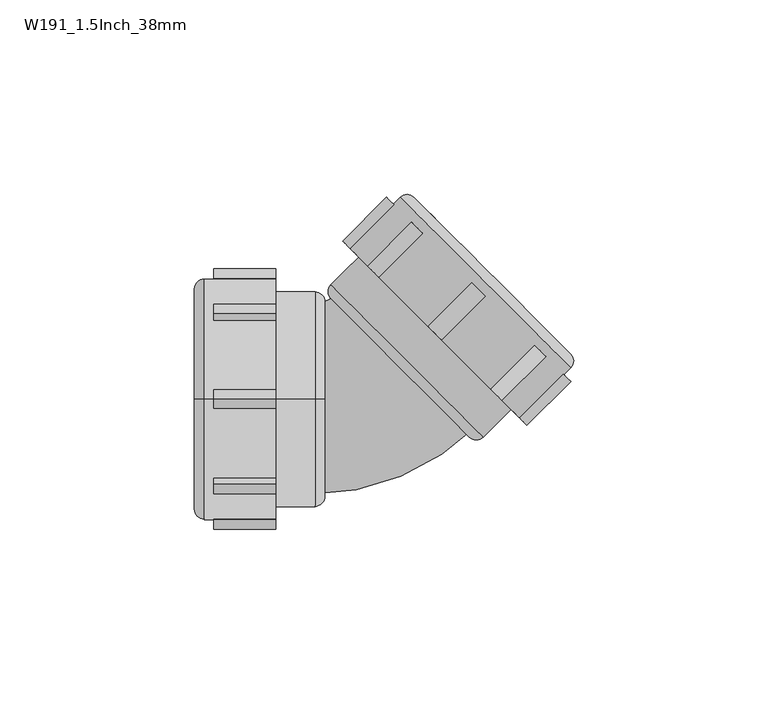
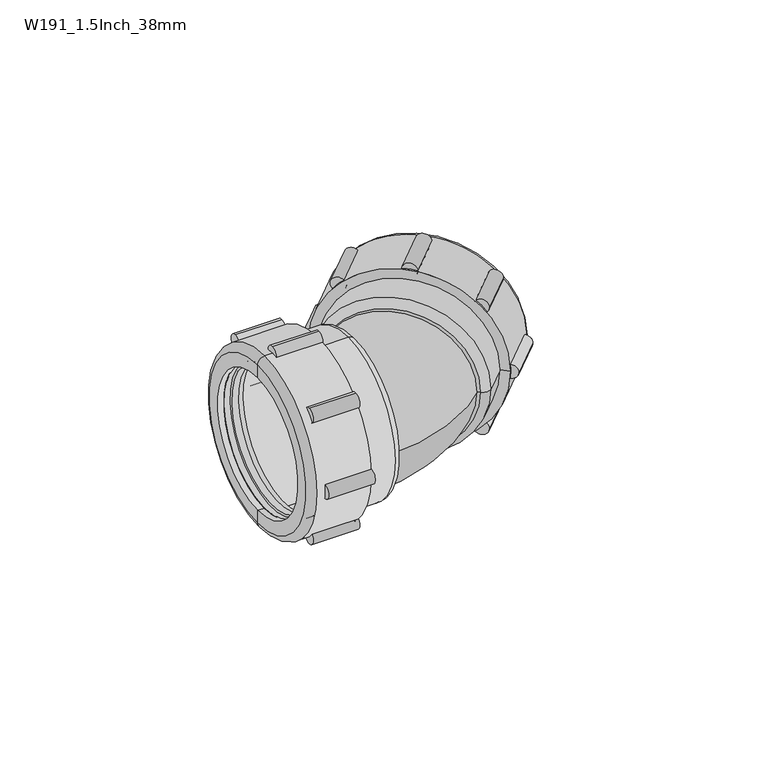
"""IFC4 building model written with IfcOpenShell, lengths in millimetres: pipe fitting geometry, Durapipe_PipeFitting_VulcatheneMechanical_135SlowBend_W19 : W191_1.5Inch_38mm."""

from ifc_helpers import new_model, si_unit, point, frame, frame_2d, origin, place, context, project, spatial, polyline, circle_curve, ellipse_curve, trimmed, segment, composite_curve, outline, extrude, source, transform, mapped, element, save
from ifc_brep_helpers import plane_surface, cylinder_surface, revolved_surface, advanced_brep


def w191_1_5inch_38mm_0de2b571(model_context):
    return source(origin(), model_context, "Body", "SolidModel", [
        advanced_brep(
        [(24.7539307, 43.1739069, 18.5969083), (51.0539307, 16.8739069, -18.5969083), (50.0039307, 17.9239069, -17.1119841), (25.8039307, 42.1239069, 17.1119841), (21.4183968, 39.438373, 18.3140656), (47.3183968, 13.538373, -18.3140656), (20.5077366, 38.2277129, 18.1019336), (46.1077366, 12.6277129, -18.1019336), (47.1683968, 13.688373, -18.1019336), (21.5683968, 39.288373, 18.1019336), (21.2077366, 37.5277129, 17.1119841), (45.4077366, 13.3277129, -17.1119841), (22.6219502, 38.9419264, 17.1119841), (46.8219502, 14.7419264, -17.1119841), (23.0219502, 38.5419264, 16.5462987), (46.4219502, 15.1419264, -16.5462987), (24.2482958, 40.568272, 17.1119841), (48.4482958, 16.368272, -17.1119841), (48.0482958, 16.768272, -16.5462987), (24.6482958, 40.168272, 16.5462987)],
        [
            (0, 1, circle_curve(frame((37.9039307, 30.0239069, 0.0), z_axis=(0.7071067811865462, 0.7071067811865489, 0.0), x_axis=(0.5000000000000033, -0.4999999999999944, -0.7071067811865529)), 26.3)),
            (1, 2),
            (2, 3, circle_curve(frame((37.9039307, 30.0239069, 0.0), z_axis=(-0.7071067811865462, -0.7071067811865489, 0.0), x_axis=(0.5000000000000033, -0.4999999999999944, -0.7071067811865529)), 24.2)),
            (3, 0),
            (1, 0, circle_curve(frame((37.9039307, 30.0239069, 0.0), z_axis=(0.7071067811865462, 0.7071067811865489, 0.0), x_axis=(0.5000000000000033, -0.4999999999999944, -0.7071067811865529)), 26.3)),
            (3, 2, circle_curve(frame((37.9039307, 30.0239069, 0.0), z_axis=(-0.7071067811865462, -0.7071067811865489, 0.0), x_axis=(0.5000000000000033, -0.4999999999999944, -0.7071067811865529)), 24.2)),
            (4, 5, circle_curve(frame((34.3683968, 26.488373, 0.0), z_axis=(0.7071067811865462, 0.7071067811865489, 0.0), x_axis=(0.5000000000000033, -0.4999999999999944, -0.7071067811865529)), 25.9)),
            (5, 1),
            (0, 4),
            (5, 4, circle_curve(frame((34.3683968, 26.488373, 0.0), z_axis=(0.7071067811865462, 0.7071067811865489, 0.0), x_axis=(0.5000000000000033, -0.4999999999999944, -0.7071067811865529)), 25.9)),
            (6, 7, circle_curve(frame((33.3077366, 25.4277129, 0.0), z_axis=(0.7071067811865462, 0.7071067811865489, 0.0), x_axis=(0.5000000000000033, -0.4999999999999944, -0.7071067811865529)), 25.6)),
            (7, 8),
            (8, 9, circle_curve(frame((34.3683968, 26.488373, 0.0), z_axis=(-0.7071067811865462, -0.7071067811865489, 0.0), x_axis=(0.5000000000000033, -0.4999999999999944, -0.7071067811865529)), 25.6)),
            (9, 6),
            (7, 6, circle_curve(frame((33.3077366, 25.4277129, 0.0), z_axis=(0.7071067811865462, 0.7071067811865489, 0.0), x_axis=(0.5000000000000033, -0.4999999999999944, -0.7071067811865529)), 25.6)),
            (9, 8, circle_curve(frame((34.3683968, 26.488373, 0.0), z_axis=(-0.7071067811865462, -0.7071067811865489, 0.0), x_axis=(0.5000000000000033, -0.4999999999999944, -0.7071067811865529)), 25.6)),
            (6, 10),
            (10, 11, circle_curve(frame((33.3077366, 25.4277129, 0.0), z_axis=(0.7071067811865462, 0.7071067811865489, 0.0), x_axis=(0.5000000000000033, -0.4999999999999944, -0.7071067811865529)), 24.2)),
            (11, 7),
            (11, 10, circle_curve(frame((33.3077366, 25.4277129, 0.0), z_axis=(0.7071067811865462, 0.7071067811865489, 0.0), x_axis=(0.5000000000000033, -0.4999999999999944, -0.7071067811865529)), 24.2)),
            (10, 12),
            (12, 13, circle_curve(frame((34.7219502, 26.8419264, 0.0), z_axis=(0.7071067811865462, 0.7071067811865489, 0.0), x_axis=(0.5000000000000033, -0.4999999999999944, -0.7071067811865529)), 24.2)),
            (13, 11),
            (13, 12, circle_curve(frame((34.7219502, 26.8419264, 0.0), z_axis=(0.7071067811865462, 0.7071067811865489, 0.0), x_axis=(0.5000000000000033, -0.4999999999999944, -0.7071067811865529)), 24.2)),
            (12, 14),
            (14, 15, circle_curve(frame((34.7219502, 26.8419264, 0.0), z_axis=(0.7071067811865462, 0.7071067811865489, 0.0), x_axis=(0.5000000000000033, -0.4999999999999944, -0.7071067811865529)), 23.4)),
            (15, 13),
            (15, 14, circle_curve(frame((34.7219502, 26.8419264, 0.0), z_axis=(0.7071067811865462, 0.7071067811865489, 0.0), x_axis=(0.5000000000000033, -0.4999999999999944, -0.7071067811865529)), 23.4)),
            (16, 17, circle_curve(frame((36.3482958, 28.468272, 0.0), z_axis=(0.7071067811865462, 0.7071067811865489, 0.0), x_axis=(0.5000000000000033, -0.4999999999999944, -0.7071067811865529)), 24.2)),
            (17, 18),
            (18, 19, circle_curve(frame((36.3482958, 28.468272, 0.0), z_axis=(-0.7071067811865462, -0.7071067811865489, 0.0), x_axis=(0.5000000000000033, -0.4999999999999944, -0.7071067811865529)), 23.4)),
            (19, 16),
            (17, 16, circle_curve(frame((36.3482958, 28.468272, 0.0), z_axis=(0.7071067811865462, 0.7071067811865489, 0.0), x_axis=(0.5000000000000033, -0.4999999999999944, -0.7071067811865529)), 24.2)),
            (19, 18, circle_curve(frame((36.3482958, 28.468272, 0.0), z_axis=(-0.7071067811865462, -0.7071067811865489, 0.0), x_axis=(0.5000000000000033, -0.4999999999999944, -0.7071067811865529)), 23.4)),
            (2, 17),
            (16, 3),
            (14, 19),
            (18, 15),
            (4, 9),
            (8, 5),
        ],
        [
            plane_surface(frame((37.9039307, 30.0239069, 0.0), z_axis=(0.7071067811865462, 0.7071067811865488, 0.0), x_axis=(0.500000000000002, -0.4999999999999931, -0.707106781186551))),
            revolved_surface(polyline([(51.0539307, 16.8739069, -18.5969083), (47.3183968, 13.538373, -18.3140656)]), (41.4394646, 33.5594408, 0.0), (-0.7071067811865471, -0.7071067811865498, 0.0)),
            cylinder_surface(frame((31.8435619, 23.9635382, 0.0), z_axis=(-0.7071067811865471, -0.7071067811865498, 0.0), x_axis=(0.5000000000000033, -0.4999999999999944, -0.7071067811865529)), 25.6),
            plane_surface(frame((33.3077366, 25.4277129, 0.0), z_axis=(-0.7071067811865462, -0.7071067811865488, 0.0), x_axis=(0.500000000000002, -0.4999999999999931, -0.707106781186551))),
            revolved_surface(polyline([(45.40773660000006, 13.327712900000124, -17.11198410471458), (46.8219501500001, 14.741926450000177, -17.11198410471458)]), (30.837819, 22.9577953, 0.0), (-0.7071067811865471, -0.7071067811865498, 0.0)),
            plane_surface(frame((34.7219502, 26.8419264, 0.0), z_axis=(-0.7071067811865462, -0.7071067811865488, 0.0), x_axis=(0.500000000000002, -0.4999999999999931, -0.707106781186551))),
            plane_surface(frame((36.3482958, 28.468272, 0.0), z_axis=(0.7071067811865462, 0.7071067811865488, 0.0), x_axis=(0.500000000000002, -0.4999999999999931, -0.707106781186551))),
            revolved_surface(polyline([(48.448295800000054, 16.368272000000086, -17.11198410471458), (50.003930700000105, 17.92390690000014, -17.11198410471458)]), (41.4394646, 33.5594408, 0.0), (-0.7071067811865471, -0.7071067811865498, 0.0)),
            revolved_surface(polyline([(46.421950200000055, 15.141926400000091, -16.546298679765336), (48.0482958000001, 16.768272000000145, -16.546298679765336)]), (39.011396, 31.1313722, 0.0), (-0.7071067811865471, -0.7071067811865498, 0.0)),
            plane_surface(frame((34.3683968, 26.488373, 0.0), z_axis=(-0.7071067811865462, -0.7071067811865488, 0.0), x_axis=(0.500000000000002, -0.4999999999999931, -0.707106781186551))),
        ],
        [
            (0, [[1, 2, 3, 4]]),
            (0, [[-2, 5, -4, 6]]),
            (1, [[7, 8, -1, 9]]),
            (1, [[10, -9, -5, -8]]),
            (2, [[11, 12, 13, 14]]),
            (2, [[-12, 15, -14, 16]]),
            (3, [[-11, 17, 18, 19]]),
            (3, [[-15, -19, 20, -17]]),
            (4, [[21, 22, 23, -18]]),
            (4, [[-21, -20, -23, 24]]),
            (5, [[-22, 25, 26, 27]]),
            (5, [[-24, -27, 28, -25]]),
            (6, [[29, 30, 31, 32]]),
            (6, [[33, -32, 34, -30]]),
            (7, [[-3, 35, -29, 36]]),
            (7, [[-6, -36, -33, -35]]),
            (8, [[37, -31, 38, -26]]),
            (8, [[-37, -28, -38, -34]]),
            (9, [[-7, 39, -13, 40]]),
            (9, [[-10, -40, -16, -39]]),
        ],
    ),
        advanced_brep(
        [(2.902145, 38.8627417, 0.0), (46.7427654, -4.9778787, 0.0), (59.7535302, 8.032886, 0.0), (15.9129098, 51.8735065, 0.0), (5.2355974, 36.5292893, 0.0), (44.4093131, -2.6444264, 0.0), (19.4484437, 51.8735065, 0.0), (59.7535302, 11.5684199, 0.0), (56.5715497, 14.7504005, 0.0), (22.6304242, 48.691526, 0.0), (19.5191544, 48.4086832, 0.0), (56.288707, 11.6391306, 0.0), (36.9846919, -7.6648845, 0.0), (0.2151392, 29.1046681, 0.0), (20.9333679, 46.9944697, 0.0), (54.8744934, 13.0533442, 0.0), (-1.9061811, 29.3875108, 0.0), (37.2675346, -9.7862048, 0.0), (-1.9061811, 25.8519769, 0.0), (33.7320007, -9.7862048, 0.0), (15.9129098, 8.032886, 0.0), (18.5999155, 10.7198918, 0.0)],
        [
            (0, 1, circle_curve(frame((24.8224552, 16.9424315, 0.0), z_axis=(0.7071067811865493, 0.7071067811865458, 0.0), x_axis=(0.7071067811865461, -0.7071067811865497, 0.0)), 31.0)),
            (1, 2),
            (2, 3, circle_curve(frame((37.83322, 29.9531963, 0.0), z_axis=(-0.7071067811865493, -0.7071067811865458, 0.0), x_axis=(0.7071067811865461, -0.7071067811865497, 0.0)), 31.0)),
            (3, 0),
            (1, 0, circle_curve(frame((24.8224552, 16.9424315, 0.0), z_axis=(0.7071067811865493, 0.7071067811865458, 0.0), x_axis=(0.7071067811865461, -0.7071067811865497, 0.0)), 31.0)),
            (3, 2, circle_curve(frame((37.83322, 29.9531963, 0.0), z_axis=(-0.7071067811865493, -0.7071067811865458, 0.0), x_axis=(0.7071067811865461, -0.7071067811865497, 0.0)), 31.0)),
            (4, 5, circle_curve(frame((24.8224552, 16.9424315, 0.0), z_axis=(0.7071067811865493, 0.7071067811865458, 0.0), x_axis=(0.7071067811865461, -0.7071067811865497, 0.0)), 27.7)),
            (5, 1),
            (0, 4),
            (5, 4, circle_curve(frame((24.8224552, 16.9424315, 0.0), z_axis=(0.7071067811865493, 0.7071067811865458, 0.0), x_axis=(0.7071067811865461, -0.7071067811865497, 0.0)), 27.7)),
            (6, 7, circle_curve(frame((39.6009869, 31.7209632, 0.0), z_axis=(0.7071067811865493, 0.7071067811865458, 0.0), x_axis=(0.7071067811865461, -0.7071067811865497, 0.0)), 28.5)),
            (7, 8),
            (8, 9, circle_curve(frame((39.6009869, 31.7209632, 0.0), z_axis=(-0.7071067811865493, -0.7071067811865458, 0.0), x_axis=(0.7071067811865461, -0.7071067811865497, 0.0)), 24.0)),
            (9, 6),
            (7, 6, circle_curve(frame((39.6009869, 31.7209632, 0.0), z_axis=(0.7071067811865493, 0.7071067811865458, 0.0), x_axis=(0.7071067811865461, -0.7071067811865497, 0.0)), 28.5)),
            (9, 8, circle_curve(frame((39.6009869, 31.7209632, 0.0), z_axis=(-0.7071067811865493, -0.7071067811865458, 0.0), x_axis=(0.7071067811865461, -0.7071067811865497, 0.0)), 24.0)),
            (2, 7, circle_curve(frame((57.9857633, 9.800653, 0.0), z_axis=(0.0, 0.0, 1.0000000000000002), x_axis=(0.7071067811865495, 0.7071067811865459, 0.0)), 2.5)),
            (6, 3, circle_curve(frame((17.6806767, 50.1057395, 0.0), z_axis=(0.0, 0.0, 1.0000000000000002), x_axis=(0.7071067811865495, 0.7071067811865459, 0.0)), 2.5)),
            (10, 11, circle_curve(frame((37.9039307, 30.0239069, 0.0), z_axis=(0.7071067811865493, 0.7071067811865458, 0.0), x_axis=(0.7071067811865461, -0.7071067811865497, 0.0)), 26.0)),
            (11, 12),
            (12, 13, circle_curve(frame((18.5999155, 10.7198918, 0.0), z_axis=(-0.7071067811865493, -0.7071067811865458, 0.0), x_axis=(0.7071067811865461, -0.7071067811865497, 0.0)), 26.0)),
            (13, 10),
            (11, 10, circle_curve(frame((37.9039307, 30.0239069, 0.0), z_axis=(0.7071067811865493, 0.7071067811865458, 0.0), x_axis=(0.7071067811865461, -0.7071067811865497, 0.0)), 26.0)),
            (13, 12, circle_curve(frame((18.5999155, 10.7198918, 0.0), z_axis=(-0.7071067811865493, -0.7071067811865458, 0.0), x_axis=(0.7071067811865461, -0.7071067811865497, 0.0)), 26.0)),
            (14, 15, circle_curve(frame((37.9039307, 30.0239069, 0.0), z_axis=(0.7071067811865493, 0.7071067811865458, 0.0), x_axis=(0.7071067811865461, -0.7071067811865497, 0.0)), 24.0)),
            (15, 11),
            (10, 14),
            (15, 14, circle_curve(frame((37.9039307, 30.0239069, 0.0), z_axis=(0.7071067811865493, 0.7071067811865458, 0.0), x_axis=(0.7071067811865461, -0.7071067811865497, 0.0)), 24.0)),
            (8, 15),
            (14, 9),
            (16, 17, circle_curve(frame((17.6806767, 9.800653, 0.0), z_axis=(0.7071067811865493, 0.7071067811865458, 0.0), x_axis=(0.7071067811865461, -0.7071067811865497, 0.0)), 27.7)),
            (17, 5),
            (4, 16),
            (17, 16, circle_curve(frame((17.6806767, 9.800653, 0.0), z_axis=(0.7071067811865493, 0.7071067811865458, 0.0), x_axis=(0.7071067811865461, -0.7071067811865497, 0.0)), 27.7)),
            (18, 19, circle_curve(frame((15.9129098, 8.032886, 0.0), z_axis=(0.7071067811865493, 0.7071067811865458, 0.0), x_axis=(0.7071067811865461, -0.7071067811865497, 0.0)), 25.2)),
            (19, 17, circle_curve(frame((35.4997676, -8.0184379, 0.0), z_axis=(0.0, 0.0, 1.0000000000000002), x_axis=(0.7071067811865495, 0.7071067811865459, 0.0)), 2.5)),
            (16, 18, circle_curve(frame((-0.1384142, 27.6197439, 0.0), z_axis=(0.0, 0.0, 1.0000000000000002), x_axis=(0.7071067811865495, 0.7071067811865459, 0.0)), 2.5)),
            (19, 18, circle_curve(frame((15.9129098, 8.032886, 0.0), z_axis=(0.7071067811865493, 0.7071067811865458, 0.0), x_axis=(0.7071067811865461, -0.7071067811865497, 0.0)), 25.2)),
            (20, 19),
            (18, 20),
            (12, 21),
            (21, 13),
        ],
        [
            cylinder_surface(frame((1143.2545368, 1135.3745131, 0.0), z_axis=(-0.7071067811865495, -0.7071067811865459, 0.0), x_axis=(0.7071067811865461, -0.7071067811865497, 0.0)), 31.0),
            plane_surface(frame((24.8224552, 16.9424315, 0.0), z_axis=(-0.7071067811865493, -0.7071067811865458, 0.0), x_axis=(0.7071067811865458, -0.7071067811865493, 0.0))),
            plane_surface(frame((39.6009869, 31.7209632, 0.0), z_axis=(0.7071067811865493, 0.7071067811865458, 0.0), x_axis=(0.7071067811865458, -0.7071067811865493, 0.0))),
            revolved_surface(trimmed(ellipse_curve(frame((57.9857633, 9.800653, 0.0), z_axis=(0.0, 0.0, -1.0000000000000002), x_axis=(0.7071067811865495, 0.7071067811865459, 0.0)), 2.5, 2.5), [point((59.7535302, 11.5684199, 0.0))], [point((59.7535302, 8.032886, 0.0))], True, "CARTESIAN"), (1143.2545368, 1135.3745131, 0.0), (-0.7071067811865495, -0.7071067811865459, 0.0)),
            revolved_surface(polyline([(36.984691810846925, -7.664884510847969, 0.0), (56.288706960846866, 11.639130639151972, 0.0)]), (1143.2545368, 1135.3745131, 0.0), (-0.7071067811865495, -0.7071067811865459, 0.0)),
            plane_surface(frame((37.9039307, 30.0239069, 0.0), z_axis=(-0.7071067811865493, -0.7071067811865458, 0.0), x_axis=(0.7071067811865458, -0.7071067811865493, 0.0))),
            revolved_surface(polyline([(54.87449339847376, 13.053344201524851, 0.0), (56.571549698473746, 14.750400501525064, 0.0)]), (1143.2545368, 1135.3745131, 0.0), (-0.7071067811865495, -0.7071067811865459, 0.0)),
            cylinder_surface(frame((1143.2545368, 1135.3745131, 0.0), z_axis=(-0.7071067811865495, -0.7071067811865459, 0.0), x_axis=(0.7071067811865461, -0.7071067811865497, 0.0)), 27.7),
            revolved_surface(trimmed(ellipse_curve(frame((35.4997676, -8.0184379, 0.0), z_axis=(0.0, 0.0, -1.0000000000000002), x_axis=(0.7071067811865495, 0.7071067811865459, 0.0)), 2.5, 2.5), [point((37.2675346, -9.7862048, 0.0))], [point((33.7320007, -9.7862048, 0.0))], True, "CARTESIAN"), (1143.2545368, 1135.3745131, 0.0), (-0.7071067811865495, -0.7071067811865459, 0.0)),
            plane_surface(frame((15.9129098, 8.032886, 0.0), z_axis=(-0.7071067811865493, -0.7071067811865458, 0.0), x_axis=(0.7071067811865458, -0.7071067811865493, 0.0))),
            plane_surface(frame((18.5999155, 10.7198918, 0.0), z_axis=(0.7071067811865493, 0.7071067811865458, 0.0), x_axis=(0.7071067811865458, -0.7071067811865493, 0.0))),
        ],
        [
            (0, [[1, 2, 3, 4]]),
            (0, [[5, -4, 6, -2]]),
            (1, [[7, 8, -1, 9]]),
            (1, [[10, -9, -5, -8]]),
            (2, [[11, 12, 13, 14]]),
            (2, [[15, -14, 16, -12]]),
            (3, [[-3, 17, -11, 18]]),
            (3, [[-6, -18, -15, -17]]),
            (4, [[19, 20, 21, 22]]),
            (4, [[23, -22, 24, -20]]),
            (5, [[25, 26, -19, 27]]),
            (5, [[28, -27, -23, -26]]),
            (6, [[-13, 29, -25, 30]]),
            (6, [[-16, -30, -28, -29]]),
            (7, [[31, 32, -7, 33]]),
            (7, [[34, -33, -10, -32]]),
            (8, [[35, 36, -31, 37]]),
            (8, [[38, -37, -34, -36]]),
            (9, [[39, -35, 40]]),
            (9, [[-40, -38, -39]]),
            (10, [[-21, 41, 42]]),
            (10, [[-24, -42, -41]]),
        ],
    ),
        extrude(outline(composite_curve([segment(trimmed(circle_curve(frame_2d((0.0, -2.5000001)), 2.5), [point((0.0, -5.0))], [point((0.0, 0.0))], False, "CARTESIAN"), True, "CONTINUOUS"), segment(trimmed(circle_curve(frame_2d((0.0, -2.5000001)), 2.5), [point((0.0, 0.0))], [point((0.0, -5.0))], False, "CARTESIAN"), True, "CONTINUOUS")], self_intersect=False)), frame((26.5902222, 15.1746645, -31.0), z_axis=(0.7071067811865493, 0.7071067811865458, 0.0), x_axis=(0.0, 0.0, 1.0)), (0.0, 0.0, 1.0), 15.9),
        extrude(outline(composite_curve([segment(trimmed(circle_curve(frame_2d((9.0796898, 19.4203102)), 2.5), [point((9.0796898, 16.9203102))], [point((9.0796898, 21.9203102))], False, "CARTESIAN"), True, "CONTINUOUS"), segment(trimmed(circle_curve(frame_2d((9.0796898, 19.4203102)), 2.5), [point((9.0796898, 21.9203102))], [point((9.0796898, 16.9203102))], False, "CARTESIAN"), True, "CONTINUOUS")], self_intersect=False)), frame((26.5902222, 15.1746645, -31.0), z_axis=(0.7071067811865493, 0.7071067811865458, 0.0), x_axis=(0.0, 0.0, 1.0)), (0.0, 0.0, 1.0), 15.9),
        extrude(outline(composite_curve([segment(trimmed(circle_curve(frame_2d((31.0, 28.4999999)), 2.5), [point((31.0, 26.0))], [point((31.0, 31.0))], False, "CARTESIAN"), True, "CONTINUOUS"), segment(trimmed(circle_curve(frame_2d((31.0, 28.4999999)), 2.5), [point((31.0, 31.0))], [point((31.0, 26.0))], False, "CARTESIAN"), True, "CONTINUOUS")], self_intersect=False)), frame((26.5902222, 15.1746645, -31.0), z_axis=(0.7071067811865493, 0.7071067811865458, 0.0), x_axis=(0.0, 0.0, 1.0)), (0.0, 0.0, 1.0), 15.9),
        extrude(outline(composite_curve([segment(trimmed(circle_curve(frame_2d((52.9203102, 19.4203102)), 2.5), [point((52.9203102, 16.9203102))], [point((52.9203102, 21.9203102))], False, "CARTESIAN"), True, "CONTINUOUS"), segment(trimmed(circle_curve(frame_2d((52.9203102, 19.4203102)), 2.5), [point((52.9203102, 21.9203102))], [point((52.9203102, 16.9203102))], False, "CARTESIAN"), True, "CONTINUOUS")], self_intersect=False)), frame((26.5902222, 15.1746645, -31.0), z_axis=(0.7071067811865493, 0.7071067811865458, 0.0), x_axis=(0.0, 0.0, 1.0)), (0.0, 0.0, 1.0), 15.9),
        extrude(outline(composite_curve([segment(trimmed(circle_curve(frame_2d((62.0, -2.5000001)), 2.5), [point((62.0, -5.0))], [point((62.0, 0.0))], False, "CARTESIAN"), True, "CONTINUOUS"), segment(trimmed(circle_curve(frame_2d((62.0, -2.5000001)), 2.5), [point((62.0, 0.0))], [point((62.0, -5.0))], False, "CARTESIAN"), True, "CONTINUOUS")], self_intersect=False)), frame((26.5902222, 15.1746645, -31.0), z_axis=(0.7071067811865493, 0.7071067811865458, 0.0), x_axis=(0.0, 0.0, 1.0)), (0.0, 0.0, 1.0), 15.9),
        extrude(outline(composite_curve([segment(trimmed(circle_curve(frame_2d((52.9203102, -24.4203103)), 2.5), [point((52.9203102, -26.9203102))], [point((52.9203102, -21.9203102))], False, "CARTESIAN"), True, "CONTINUOUS"), segment(trimmed(circle_curve(frame_2d((52.9203102, -24.4203103)), 2.5), [point((52.9203102, -21.9203102))], [point((52.9203102, -26.9203102))], False, "CARTESIAN"), True, "CONTINUOUS")], self_intersect=False)), frame((26.5902222, 15.1746645, -31.0), z_axis=(0.7071067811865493, 0.7071067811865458, 0.0), x_axis=(0.0, 0.0, 1.0)), (0.0, 0.0, 1.0), 15.9),
        extrude(outline(composite_curve([segment(trimmed(circle_curve(frame_2d((31.0, -33.5)), 2.5), [point((31.0, -36.0))], [point((31.0, -31.0))], False, "CARTESIAN"), True, "CONTINUOUS"), segment(trimmed(circle_curve(frame_2d((31.0, -33.5)), 2.5), [point((31.0, -31.0))], [point((31.0, -36.0))], False, "CARTESIAN"), True, "CONTINUOUS")], self_intersect=False)), frame((26.5902222, 15.1746645, -31.0), z_axis=(0.7071067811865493, 0.7071067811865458, 0.0), x_axis=(0.0, 0.0, 1.0)), (0.0, 0.0, 1.0), 15.9),
        extrude(outline(composite_curve([segment(trimmed(circle_curve(frame_2d((9.0796898, -24.4203103)), 2.5), [point((9.0796898, -26.9203102))], [point((9.0796898, -21.9203102))], False, "CARTESIAN"), True, "CONTINUOUS"), segment(trimmed(circle_curve(frame_2d((9.0796898, -24.4203103)), 2.5), [point((9.0796898, -21.9203102))], [point((9.0796898, -26.9203102))], False, "CARTESIAN"), True, "CONTINUOUS")], self_intersect=False)), frame((26.5902222, 15.1746645, -31.0), z_axis=(0.7071067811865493, 0.7071067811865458, 0.0), x_axis=(0.0, 0.0, 1.0)), (0.0, 0.0, 1.0), 15.9),
        advanced_brep(
        [(-34.5801926, -18.5969083, -18.5969083), (-34.5801926, 18.5969083, 18.5969083), (-34.5801926, 17.1119841, 17.1119841), (-34.5801926, -17.1119841, -17.1119841), (-29.5801926, -18.3140656, -18.3140656), (-29.5801926, 18.3140656, 18.3140656), (-28.0801926, -18.1019336, -18.1019336), (-28.0801926, 18.1019336, 18.1019336), (-29.5801926, 18.1019336, 18.1019336), (-29.5801926, -18.1019336, -18.1019336), (-28.0801926, -17.1119841, -17.1119841), (-28.0801926, 17.1119841, 17.1119841), (-30.0801926, -17.1119841, -17.1119841), (-30.0801926, 17.1119841, 17.1119841), (-30.0801926, -16.5462987, -16.5462987), (-30.0801926, 16.5462987, 16.5462987), (-32.3801926, -17.1119841, -17.1119841), (-32.3801926, 17.1119841, 17.1119841), (-32.3801926, 16.5462987, 16.5462987), (-32.3801926, -16.5462987, -16.5462987)],
        [
            (0, 1, circle_curve(frame((-34.5801926, 0.0, 0.0), z_axis=(-1.0, 0.0, 0.0), x_axis=(0.0, 0.7071067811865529, 0.7071067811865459)), 26.3)),
            (1, 2),
            (2, 3, circle_curve(frame((-34.5801926, 0.0, 0.0), z_axis=(1.0, 0.0, 0.0), x_axis=(0.0, 0.7071067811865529, 0.7071067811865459)), 24.2)),
            (3, 0),
            (1, 0, circle_curve(frame((-34.5801926, 0.0, 0.0), z_axis=(-1.0, 0.0, 0.0), x_axis=(0.0, 0.7071067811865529, 0.7071067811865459)), 26.3)),
            (3, 2, circle_curve(frame((-34.5801926, 0.0, 0.0), z_axis=(1.0, 0.0, 0.0), x_axis=(0.0, 0.7071067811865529, 0.7071067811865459)), 24.2)),
            (4, 5, circle_curve(frame((-29.5801926, 0.0, 0.0), z_axis=(-1.0, 0.0, 0.0), x_axis=(0.0, 0.7071067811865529, 0.7071067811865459)), 25.9)),
            (5, 1),
            (0, 4),
            (5, 4, circle_curve(frame((-29.5801926, 0.0, 0.0), z_axis=(-1.0, 0.0, 0.0), x_axis=(0.0, 0.7071067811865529, 0.7071067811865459)), 25.9)),
            (6, 7, circle_curve(frame((-28.0801926, 0.0, 0.0), z_axis=(-1.0, 0.0, 0.0), x_axis=(0.0, 0.7071067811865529, 0.7071067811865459)), 25.6)),
            (7, 8),
            (8, 9, circle_curve(frame((-29.5801926, 0.0, 0.0), z_axis=(1.0, 0.0, 0.0), x_axis=(0.0, 0.7071067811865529, 0.7071067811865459)), 25.6)),
            (9, 6),
            (7, 6, circle_curve(frame((-28.0801926, 0.0, 0.0), z_axis=(-1.0, 0.0, 0.0), x_axis=(0.0, 0.7071067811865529, 0.7071067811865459)), 25.6)),
            (9, 8, circle_curve(frame((-29.5801926, 0.0, 0.0), z_axis=(1.0, 0.0, 0.0), x_axis=(0.0, 0.7071067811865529, 0.7071067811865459)), 25.6)),
            (6, 10),
            (10, 11, circle_curve(frame((-28.0801926, 0.0, 0.0), z_axis=(-1.0, 0.0, 0.0), x_axis=(0.0, 0.7071067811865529, 0.7071067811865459)), 24.2)),
            (11, 7),
            (11, 10, circle_curve(frame((-28.0801926, 0.0, 0.0), z_axis=(-1.0, 0.0, 0.0), x_axis=(0.0, 0.7071067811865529, 0.7071067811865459)), 24.2)),
            (10, 12),
            (12, 13, circle_curve(frame((-30.0801926, 0.0, 0.0), z_axis=(-1.0, 0.0, 0.0), x_axis=(0.0, 0.7071067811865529, 0.7071067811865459)), 24.2)),
            (13, 11),
            (13, 12, circle_curve(frame((-30.0801926, 0.0, 0.0), z_axis=(-1.0, 0.0, 0.0), x_axis=(0.0, 0.7071067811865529, 0.7071067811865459)), 24.2)),
            (12, 14),
            (14, 15, circle_curve(frame((-30.0801926, 0.0, 0.0), z_axis=(-1.0, 0.0, 0.0), x_axis=(0.0, 0.7071067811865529, 0.7071067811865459)), 23.4)),
            (15, 13),
            (15, 14, circle_curve(frame((-30.0801926, 0.0, 0.0), z_axis=(-1.0, 0.0, 0.0), x_axis=(0.0, 0.7071067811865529, 0.7071067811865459)), 23.4)),
            (16, 17, circle_curve(frame((-32.3801926, 0.0, 0.0), z_axis=(-1.0, 0.0, 0.0), x_axis=(0.0, 0.7071067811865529, 0.7071067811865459)), 24.2)),
            (17, 18),
            (18, 19, circle_curve(frame((-32.3801926, 0.0, 0.0), z_axis=(1.0, 0.0, 0.0), x_axis=(0.0, 0.7071067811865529, 0.7071067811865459)), 23.4)),
            (19, 16),
            (17, 16, circle_curve(frame((-32.3801926, 0.0, 0.0), z_axis=(-1.0, 0.0, 0.0), x_axis=(0.0, 0.7071067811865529, 0.7071067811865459)), 24.2)),
            (19, 18, circle_curve(frame((-32.3801926, 0.0, 0.0), z_axis=(1.0, 0.0, 0.0), x_axis=(0.0, 0.7071067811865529, 0.7071067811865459)), 23.4)),
            (2, 17),
            (16, 3),
            (14, 19),
            (18, 15),
            (4, 9),
            (8, 5),
        ],
        [
            plane_surface(frame((-34.5801926, 0.0, 0.0), z_axis=(-1.0, 0.0, 0.0), x_axis=(0.0, 0.707106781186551, 0.707106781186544))),
            revolved_surface(polyline([(-34.5801926, 18.5969083, 18.5969083), (-29.5801926, 18.3140656, 18.3140656)]), (-39.5801926, 0.0, 0.0), (1.0000000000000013, 0.0, 0.0)),
            cylinder_surface(frame((-26.0095369, 0.0, 0.0), z_axis=(1.0000000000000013, 0.0, 0.0), x_axis=(0.0, 0.7071067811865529, 0.7071067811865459)), 25.6),
            plane_surface(frame((-28.0801926, 0.0, 0.0), z_axis=(1.0, 0.0, 0.0), x_axis=(0.0, 0.707106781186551, 0.707106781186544))),
            revolved_surface(polyline([(-28.08019260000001, 17.11198410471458, 17.11198410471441), (-30.080192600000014, 17.11198410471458, 17.11198410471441)]), (-24.5872017, 0.0, 0.0), (1.0000000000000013, 0.0, 0.0)),
            plane_surface(frame((-30.0801926, 0.0, 0.0), z_axis=(1.0, 0.0, 0.0), x_axis=(0.0, 0.707106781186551, 0.707106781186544))),
            plane_surface(frame((-32.3801926, 0.0, 0.0), z_axis=(-1.0, 0.0, 0.0), x_axis=(0.0, 0.707106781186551, 0.707106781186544))),
            revolved_surface(polyline([(-32.38019259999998, 17.11198410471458, 17.11198410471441), (-34.58019259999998, 17.11198410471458, 17.11198410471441)]), (-39.5801926, 0.0, 0.0), (1.0000000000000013, 0.0, 0.0)),
            revolved_surface(polyline([(-30.080192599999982, 16.546298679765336, 16.546298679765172), (-32.380192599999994, 16.546298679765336, 16.546298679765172)]), (-36.1463851, 0.0, 0.0), (1.0000000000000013, 0.0, 0.0)),
            plane_surface(frame((-29.5801926, 0.0, 0.0), z_axis=(1.0, 0.0, 0.0), x_axis=(0.0, 0.707106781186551, 0.707106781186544))),
        ],
        [
            (0, [[1, 2, 3, 4]]),
            (0, [[-2, 5, -4, 6]]),
            (1, [[7, 8, -1, 9]]),
            (1, [[10, -9, -5, -8]]),
            (2, [[11, 12, 13, 14]]),
            (2, [[-12, 15, -14, 16]]),
            (3, [[-11, 17, 18, 19]]),
            (3, [[-15, -19, 20, -17]]),
            (4, [[21, 22, 23, -18]]),
            (4, [[-21, -20, -23, 24]]),
            (5, [[-22, 25, 26, 27]]),
            (5, [[-24, -27, 28, -25]]),
            (6, [[29, 30, 31, 32]]),
            (6, [[33, -32, 34, -30]]),
            (7, [[-3, 35, -29, 36]]),
            (7, [[-6, -36, -33, -35]]),
            (8, [[37, -31, 38, -26]]),
            (8, [[-37, -28, -38, -34]]),
            (9, [[-7, 39, -13, 40]]),
            (9, [[-10, -40, -16, -39]]),
        ],
    ),
        advanced_brep(
        [(-16.0801926, 0.0, -31.0), (-16.0801926, 0.0, 31.0), (-34.4801926, 0.0, 31.0), (-34.4801926, 0.0, -31.0), (-16.0801926, 0.0, -27.7), (-16.0801926, 0.0, 27.7), (-36.9801926, 0.0, -28.5), (-36.9801926, 0.0, 28.5), (-36.9801926, 0.0, 24.0), (-36.9801926, 0.0, -24.0), (-34.5801926, 0.0, -26.0), (-34.5801926, 0.0, 26.0), (-7.2801926, 0.0, 26.0), (-7.2801926, 0.0, -26.0), (-34.5801926, 0.0, -24.0), (-34.5801926, 0.0, 24.0), (-5.9801926, 0.0, -27.7), (-5.9801926, 0.0, 27.7), (-3.4801926, 0.0, -25.2), (-3.4801926, 0.0, 25.2), (-3.4801926, 0.0, 0.0), (-7.2801926, 0.0, 0.0)],
        [
            (0, 1, circle_curve(frame((-16.0801926, 0.0, 0.0), z_axis=(-1.0, 0.0, 0.0), x_axis=(0.0, 0.0, 1.0000000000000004)), 31.0)),
            (1, 2),
            (2, 3, circle_curve(frame((-34.4801926, 0.0, 0.0), z_axis=(1.0, 0.0, 0.0), x_axis=(0.0, 0.0, 1.0000000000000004)), 31.0)),
            (3, 0),
            (1, 0, circle_curve(frame((-16.0801926, 0.0, 0.0), z_axis=(-1.0, 0.0, 0.0), x_axis=(0.0, 0.0, 1.0000000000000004)), 31.0)),
            (3, 2, circle_curve(frame((-34.4801926, 0.0, 0.0), z_axis=(1.0, 0.0, 0.0), x_axis=(0.0, 0.0, 1.0000000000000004)), 31.0)),
            (4, 5, circle_curve(frame((-16.0801926, 0.0, 0.0), z_axis=(-1.0, 0.0, 0.0), x_axis=(0.0, 0.0, 1.0000000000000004)), 27.7)),
            (5, 1),
            (0, 4),
            (5, 4, circle_curve(frame((-16.0801926, 0.0, 0.0), z_axis=(-1.0, 0.0, 0.0), x_axis=(0.0, 0.0, 1.0000000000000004)), 27.7)),
            (6, 7, circle_curve(frame((-36.9801926, 0.0, 0.0), z_axis=(-1.0, 0.0, 0.0), x_axis=(0.0, 0.0, 1.0000000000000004)), 28.5)),
            (7, 8),
            (8, 9, circle_curve(frame((-36.9801926, 0.0, 0.0), z_axis=(1.0, 0.0, 0.0), x_axis=(0.0, 0.0, 1.0000000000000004)), 24.0)),
            (9, 6),
            (7, 6, circle_curve(frame((-36.9801926, 0.0, 0.0), z_axis=(-1.0, 0.0, 0.0), x_axis=(0.0, 0.0, 1.0000000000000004)), 28.5)),
            (9, 8, circle_curve(frame((-36.9801926, 0.0, 0.0), z_axis=(1.0, 0.0, 0.0), x_axis=(0.0, 0.0, 1.0000000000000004)), 24.0)),
            (2, 7, circle_curve(frame((-34.4801926, 0.0, 28.5), z_axis=(0.0, -1.0000000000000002, 0.0), x_axis=(-1.0000000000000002, 0.0, 0.0)), 2.5)),
            (6, 3, circle_curve(frame((-34.4801926, 0.0, -28.5), z_axis=(0.0, -1.0000000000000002, 0.0), x_axis=(-1.0000000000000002, 0.0, 0.0)), 2.5)),
            (10, 11, circle_curve(frame((-34.5801926, 0.0, 0.0), z_axis=(-1.0, 0.0, 0.0), x_axis=(0.0, 0.0, 1.0000000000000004)), 26.0)),
            (11, 12),
            (12, 13, circle_curve(frame((-7.2801926, 0.0, 0.0), z_axis=(1.0, 0.0, 0.0), x_axis=(0.0, 0.0, 1.0000000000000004)), 26.0)),
            (13, 10),
            (11, 10, circle_curve(frame((-34.5801926, 0.0, 0.0), z_axis=(-1.0, 0.0, 0.0), x_axis=(0.0, 0.0, 1.0000000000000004)), 26.0)),
            (13, 12, circle_curve(frame((-7.2801926, 0.0, 0.0), z_axis=(1.0, 0.0, 0.0), x_axis=(0.0, 0.0, 1.0000000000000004)), 26.0)),
            (14, 15, circle_curve(frame((-34.5801926, 0.0, 0.0), z_axis=(-1.0, 0.0, 0.0), x_axis=(0.0, 0.0, 1.0000000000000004)), 24.0)),
            (15, 11),
            (10, 14),
            (15, 14, circle_curve(frame((-34.5801926, 0.0, 0.0), z_axis=(-1.0, 0.0, 0.0), x_axis=(0.0, 0.0, 1.0000000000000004)), 24.0)),
            (8, 15),
            (14, 9),
            (16, 17, circle_curve(frame((-5.9801926, 0.0, 0.0), z_axis=(-1.0, 0.0, 0.0), x_axis=(0.0, 0.0, 1.0000000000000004)), 27.7)),
            (17, 5),
            (4, 16),
            (17, 16, circle_curve(frame((-5.9801926, 0.0, 0.0), z_axis=(-1.0, 0.0, 0.0), x_axis=(0.0, 0.0, 1.0000000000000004)), 27.7)),
            (18, 19, circle_curve(frame((-3.4801926, 0.0, 0.0), z_axis=(-1.0, 0.0, 0.0), x_axis=(0.0, 0.0, 1.0000000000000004)), 25.2)),
            (19, 17, circle_curve(frame((-5.9801926, 0.0, 25.2), z_axis=(0.0, -1.0000000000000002, 0.0), x_axis=(-1.0000000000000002, 0.0, 0.0)), 2.5)),
            (16, 18, circle_curve(frame((-5.9801926, 0.0, -25.2), z_axis=(0.0, -1.0000000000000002, 0.0), x_axis=(-1.0000000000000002, 0.0, 0.0)), 2.5)),
            (19, 18, circle_curve(frame((-3.4801926, 0.0, 0.0), z_axis=(-1.0, 0.0, 0.0), x_axis=(0.0, 0.0, 1.0000000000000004)), 25.2)),
            (20, 19),
            (18, 20),
            (12, 21),
            (21, 13),
        ],
        [
            cylinder_surface(frame((-1597.782011, 0.0, 0.0), z_axis=(1.0000000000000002, 0.0, 0.0), x_axis=(0.0, 0.0, 1.0000000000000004)), 31.0),
            plane_surface(frame((-16.0801926, 0.0, 0.0), z_axis=(1.0, 0.0, 0.0), x_axis=(0.0, 0.0, 1.0))),
            plane_surface(frame((-36.9801926, 0.0, 0.0), z_axis=(-1.0, 0.0, 0.0), x_axis=(0.0, 0.0, 1.0))),
            revolved_surface(trimmed(ellipse_curve(frame((-34.4801926, 0.0, 28.5), z_axis=(0.0, 1.0000000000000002, 0.0), x_axis=(-1.0000000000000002, 0.0, 0.0)), 2.5, 2.5), [point((-36.9801926, 0.0, 28.5))], [point((-34.4801926, 0.0, 31.0))], True, "CARTESIAN"), (-1597.782011, 0.0, 0.0), (1.0000000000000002, 0.0, 0.0)),
            revolved_surface(polyline([(-7.280192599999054, 0.0, 26.00000000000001), (-34.58019259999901, 0.0, 26.00000000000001)]), (-1597.782011, 0.0, 0.0), (1.0000000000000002, 0.0, 0.0)),
            plane_surface(frame((-34.5801926, 0.0, 0.0), z_axis=(1.0, 0.0, 0.0), x_axis=(0.0, 0.0, 1.0))),
            revolved_surface(polyline([(-34.58019259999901, 0.0, 24.00000000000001), (-36.9801925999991, 0.0, 24.00000000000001)]), (-1597.782011, 0.0, 0.0), (1.0000000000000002, 0.0, 0.0)),
            cylinder_surface(frame((-1597.782011, 0.0, 0.0), z_axis=(1.0000000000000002, 0.0, 0.0), x_axis=(0.0, 0.0, 1.0000000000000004)), 27.7),
            revolved_surface(trimmed(ellipse_curve(frame((-5.9801926, 0.0, 25.2), z_axis=(0.0, 1.0000000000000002, 0.0), x_axis=(-1.0000000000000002, 0.0, 0.0)), 2.5, 2.5), [point((-5.9801926, 0.0, 27.7))], [point((-3.4801926, 0.0, 25.2))], True, "CARTESIAN"), (-1597.782011, 0.0, 0.0), (1.0000000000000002, 0.0, 0.0)),
            plane_surface(frame((-3.4801926, 0.0, 0.0), z_axis=(1.0, 0.0, 0.0), x_axis=(0.0, 0.0, 1.0))),
            plane_surface(frame((-7.2801926, 0.0, 0.0), z_axis=(-1.0, 0.0, 0.0), x_axis=(0.0, 0.0, 1.0))),
        ],
        [
            (0, [[1, 2, 3, 4]]),
            (0, [[5, -4, 6, -2]]),
            (1, [[7, 8, -1, 9]]),
            (1, [[10, -9, -5, -8]]),
            (2, [[11, 12, 13, 14]]),
            (2, [[15, -14, 16, -12]]),
            (3, [[-3, 17, -11, 18]]),
            (3, [[-6, -18, -15, -17]]),
            (4, [[19, 20, 21, 22]]),
            (4, [[23, -22, 24, -20]]),
            (5, [[25, 26, -19, 27]]),
            (5, [[28, -27, -23, -26]]),
            (6, [[-13, 29, -25, 30]]),
            (6, [[-16, -30, -28, -29]]),
            (7, [[31, 32, -7, 33]]),
            (7, [[34, -33, -10, -32]]),
            (8, [[35, 36, -31, 37]]),
            (8, [[38, -37, -34, -36]]),
            (9, [[39, -35, 40]]),
            (9, [[-40, -38, -39]]),
            (10, [[-21, 41, 42]]),
            (10, [[-24, -42, -41]]),
        ],
    ),
        extrude(outline(composite_curve([segment(trimmed(circle_curve(frame_2d((31.0, 0.0)), 2.5), [point((31.0, -2.5))], [point((31.0, 2.5))], False, "CARTESIAN"), True, "CONTINUOUS"), segment(trimmed(circle_curve(frame_2d((31.0, 0.0)), 2.5), [point((31.0, 2.5))], [point((31.0, -2.5))], False, "CARTESIAN"), True, "CONTINUOUS")], self_intersect=False)), frame((-31.9801926, 0.0, 0.0), z_axis=(1.0, 0.0, 0.0), x_axis=(0.0, 1.0, 0.0)), (0.0, 0.0, 1.0), 15.9),
        extrude(outline(composite_curve([segment(trimmed(circle_curve(frame_2d((21.9203102, 21.9203102)), 2.5), [point((21.9203102, 19.4203102))], [point((21.9203102, 24.4203102))], False, "CARTESIAN"), True, "CONTINUOUS"), segment(trimmed(circle_curve(frame_2d((21.9203102, 21.9203102)), 2.5), [point((21.9203102, 24.4203102))], [point((21.9203102, 19.4203102))], False, "CARTESIAN"), True, "CONTINUOUS")], self_intersect=False)), frame((-31.9801926, 0.0, 0.0), z_axis=(1.0, 0.0, 0.0), x_axis=(0.0, 1.0, 0.0)), (0.0, 0.0, 1.0), 15.9),
        extrude(outline(composite_curve([segment(trimmed(circle_curve(frame_2d((0.0, 31.0)), 2.5), [point((0.0, 28.5))], [point((0.0, 33.5))], False, "CARTESIAN"), True, "CONTINUOUS"), segment(trimmed(circle_curve(frame_2d((0.0, 31.0)), 2.5), [point((0.0, 33.5))], [point((0.0, 28.5))], False, "CARTESIAN"), True, "CONTINUOUS")], self_intersect=False)), frame((-31.9801926, 0.0, 0.0), z_axis=(1.0, 0.0, 0.0), x_axis=(0.0, 1.0, 0.0)), (0.0, 0.0, 1.0), 15.9),
        extrude(outline(composite_curve([segment(trimmed(circle_curve(frame_2d((-21.9203102, 21.9203102)), 2.5), [point((-21.9203102, 19.4203102))], [point((-21.9203102, 24.4203102))], False, "CARTESIAN"), True, "CONTINUOUS"), segment(trimmed(circle_curve(frame_2d((-21.9203102, 21.9203102)), 2.5), [point((-21.9203102, 24.4203102))], [point((-21.9203102, 19.4203102))], False, "CARTESIAN"), True, "CONTINUOUS")], self_intersect=False)), frame((-31.9801926, 0.0, 0.0), z_axis=(1.0, 0.0, 0.0), x_axis=(0.0, 1.0, 0.0)), (0.0, 0.0, 1.0), 15.9),
        extrude(outline(composite_curve([segment(trimmed(circle_curve(frame_2d((-31.0, 0.0)), 2.5), [point((-31.0, -2.5))], [point((-31.0, 2.5))], False, "CARTESIAN"), True, "CONTINUOUS"), segment(trimmed(circle_curve(frame_2d((-31.0, 0.0)), 2.5), [point((-31.0, 2.5))], [point((-31.0, -2.5))], False, "CARTESIAN"), True, "CONTINUOUS")], self_intersect=False)), frame((-31.9801926, 0.0, 0.0), z_axis=(1.0, 0.0, 0.0), x_axis=(0.0, 1.0, 0.0)), (0.0, 0.0, 1.0), 15.9),
        extrude(outline(composite_curve([segment(trimmed(circle_curve(frame_2d((-21.9203102, -21.9203102)), 2.5), [point((-21.9203102, -24.4203102))], [point((-21.9203102, -19.4203102))], False, "CARTESIAN"), True, "CONTINUOUS"), segment(trimmed(circle_curve(frame_2d((-21.9203102, -21.9203102)), 2.5), [point((-21.9203102, -19.4203102))], [point((-21.9203102, -24.4203102))], False, "CARTESIAN"), True, "CONTINUOUS")], self_intersect=False)), frame((-31.9801926, 0.0, 0.0), z_axis=(1.0, 0.0, 0.0), x_axis=(0.0, 1.0, 0.0)), (0.0, 0.0, 1.0), 15.9),
        extrude(outline(composite_curve([segment(trimmed(circle_curve(frame_2d((0.0, -31.0)), 2.5), [point((0.0, -33.5))], [point((0.0, -28.5))], False, "CARTESIAN"), True, "CONTINUOUS"), segment(trimmed(circle_curve(frame_2d((0.0, -31.0)), 2.5), [point((0.0, -28.5))], [point((0.0, -33.5))], False, "CARTESIAN"), True, "CONTINUOUS")], self_intersect=False)), frame((-31.9801926, 0.0, 0.0), z_axis=(1.0, 0.0, 0.0), x_axis=(0.0, 1.0, 0.0)), (0.0, 0.0, 1.0), 15.9),
        extrude(outline(composite_curve([segment(trimmed(circle_curve(frame_2d((21.9203102, -21.9203102)), 2.5), [point((21.9203102, -24.4203102))], [point((21.9203102, -19.4203102))], False, "CARTESIAN"), True, "CONTINUOUS"), segment(trimmed(circle_curve(frame_2d((21.9203102, -21.9203102)), 2.5), [point((21.9203102, -19.4203102))], [point((21.9203102, -24.4203102))], False, "CARTESIAN"), True, "CONTINUOUS")], self_intersect=False)), frame((-31.9801926, 0.0, 0.0), z_axis=(1.0, 0.0, 0.0), x_axis=(0.0, 1.0, 0.0)), (0.0, 0.0, 1.0), 15.9),
        advanced_brep(
        [(-7.2801926, -24.5, 0.0), (-7.2801926, 24.5, 0.0), (35.9240317, -6.6042243, 0.0), (1.2757994, 28.0440079, 0.0)],
        [
            (0, 1, circle_curve(frame((-7.2801926, 0.0, 0.0), z_axis=(-1.0, 0.0, 0.0), x_axis=(0.0, 1.0, 0.0)), 24.5)),
            (1, 0, circle_curve(frame((-7.2801926, 0.0, 0.0), z_axis=(-1.0, 0.0, 0.0), x_axis=(0.0, 1.0, 0.0)), 24.5)),
            (2, 3, circle_curve(frame((18.5999155, 10.7198918, 0.0), z_axis=(0.7071067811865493, 0.7071067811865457, 0.0), x_axis=(-0.7071067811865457, 0.7071067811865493, 0.0)), 24.5)),
            (3, 2, circle_curve(frame((18.5999155, 10.7198918, 0.0), z_axis=(0.7071067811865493, 0.7071067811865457, 0.0), x_axis=(-0.7071067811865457, 0.7071067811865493, 0.0)), 24.5)),
            (3, 1, circle_curve(frame((-7.2801926, 36.6, 0.0), z_axis=(0.0, 0.0, -1.0), x_axis=(0.0, -1.0, 0.0)), 12.1)),
            (0, 2, circle_curve(frame((-7.2801926, 36.6, 0.0), z_axis=(0.0, 0.0, 1.0), x_axis=(0.0, -1.0, 0.0)), 61.1)),
        ],
        [
            plane_surface(frame((-7.2801926, 0.0, 0.0), z_axis=(-1.0, 0.0, 0.0), x_axis=(0.0, 0.0, 1.0))),
            plane_surface(frame((18.5999155, 10.7198918, 0.0), z_axis=(0.7071067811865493, 0.7071067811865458, 0.0), x_axis=(0.0, 0.0, 1.0))),
            revolved_surface(trimmed(ellipse_curve(frame((-7.2801926, 0.0, 0.0), z_axis=(-1.0, 0.0, 0.0), x_axis=(0.0, 1.0, 0.0)), 24.5, 24.5), [point((-7.2801926, -24.5, 0.0))], [point((-7.2801926, 24.5, 0.0))], True, "CARTESIAN"), (-7.2801926, 36.6, 0.0), (0.0, 0.0, 1.0)),
            revolved_surface(trimmed(ellipse_curve(frame((-7.2801926, 0.0, 0.0), z_axis=(-1.0, 0.0, 0.0), x_axis=(0.0, 1.0, 0.0)), 24.5, 24.5), [point((-7.2801926, 24.5, 0.0))], [point((-7.2801926, -24.5, 0.0))], True, "CARTESIAN"), (-7.2801926, 36.6, 0.0), (0.0, 0.0, 1.0)),
        ],
        [
            (0, [[1, 2]]),
            (1, [[3, 4]]),
            (2, [[5, -1, 6, -4]]),
            (3, [[-6, -2, -5, -3]]),
        ],
    ),
    ])


if __name__ == "__main__":
    model = new_model("IFC4")
    model_context = context("Model", 3, world=origin())
    ifc_project = project(units=[si_unit("LENGTHUNIT", "METRE", prefix="MILLI")], contexts=[model_context])
    site = spatial("IfcSite", under=ifc_project)
    building = spatial("IfcBuilding", under=site)
    placement = place(None, origin())
    w191_1_5inch_38mm_shape = w191_1_5inch_38mm_0de2b571(model_context)
    element("IfcPipeFitting", 1, ObjectType="Durapipe_PipeFitting_VulcatheneMechanical_135SlowBend_W19 : W191_1.5Inch_38mm", at=placement, inside=building, context=model_context, shape_type="MappedRepresentation", body=[
        mapped(w191_1_5inch_38mm_shape, transform((0.0, 0.0, 0.0), x_axis=(1.0, 0.0, 0.0), y_axis=(0.0, 1.0, 0.0), z_axis=(0.0, 0.0, 1.0))),
    ])
    save(model, "model.ifc")
